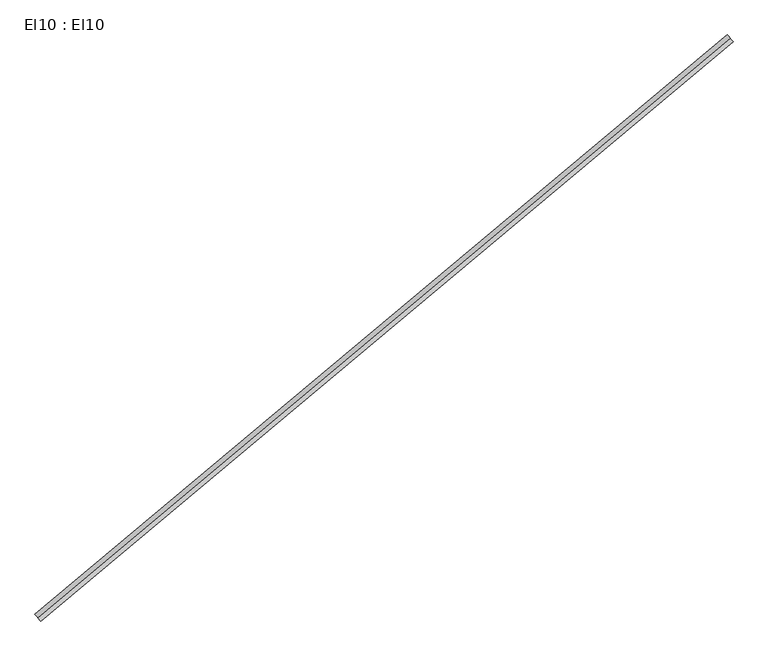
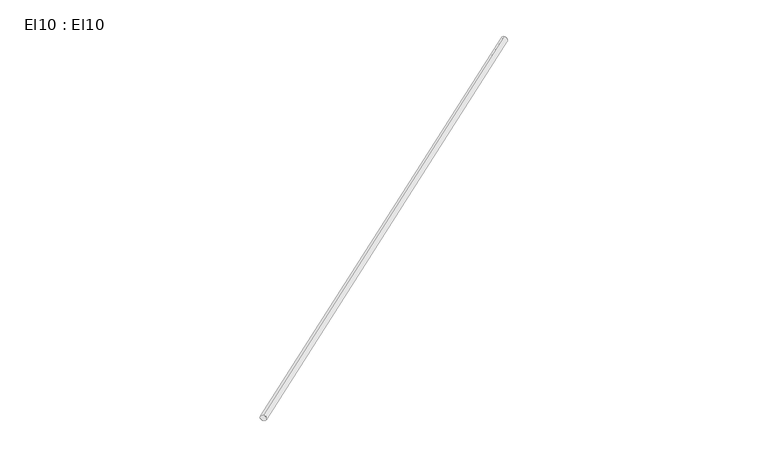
"""IFC4 building model written with IfcOpenShell, lengths in millimetres: cable carrier segment geometry, El10 : El10."""

from ifc_helpers import new_model, si_unit, point, frame, frame_2d, origin, place, context, project, spatial, circle_curve, trimmed, segment, composite_curve, outline, extrude, source, transform, mapped, element, save


def el10_el10_22b22186(model_context):
    return source(origin(), model_context, "Body", "SweptSolid", [
        extrude(outline(composite_curve([segment(trimmed(circle_curve(frame_2d((0.0, -12.0)), 12.0), [point((0.0, -24.0))], [point((0.0, 0.0))], False, "CARTESIAN"), True, "CONTINUOUS"), segment(trimmed(circle_curve(frame_2d((0.0, -12.0)), 12.0), [point((0.0, 0.0))], [point((0.0, -24.0))], False, "CARTESIAN"), True, "CONTINUOUS")], self_intersect=False)), frame((2373.865, 10458.768, 2962.0), z_axis=(0.7667348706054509, 0.6419638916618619, 0.0), x_axis=(-0.6419638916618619, 0.7667348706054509, 0.0)), (0.0, 0.0, 1.0), 2409.27),
    ])


if __name__ == "__main__":
    model = new_model("IFC4")
    model_context = context("Model", 3, world=origin())
    ifc_project = project(units=[si_unit("LENGTHUNIT", "METRE", prefix="MILLI")], contexts=[model_context])
    site = spatial("IfcSite", under=ifc_project)
    building = spatial("IfcBuilding", under=site)
    placement = place(None, origin())
    el10_el10_shape = el10_el10_22b22186(model_context)
    element("IfcCableCarrierSegment", 1, ObjectType="El10 : El10", at=placement, inside=building, context=model_context, shape_type="MappedRepresentation", body=[
        mapped(el10_el10_shape, transform((0.0, 0.0, 0.0), x_axis=(1.0, 0.0, 0.0), y_axis=(0.0, 1.0, 0.0), z_axis=(0.0, 0.0, 1.0))),
    ])
    save(model, "model.ifc")
